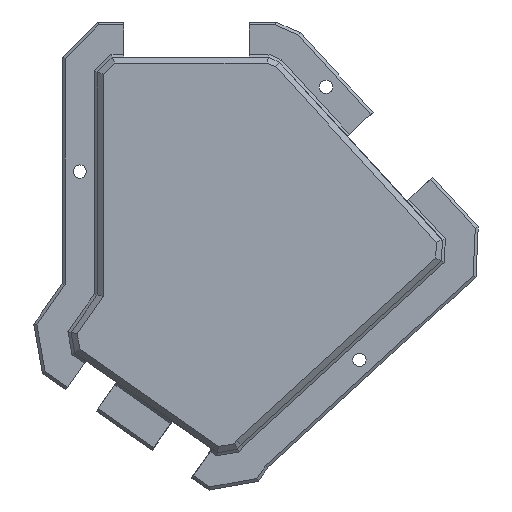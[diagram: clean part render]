
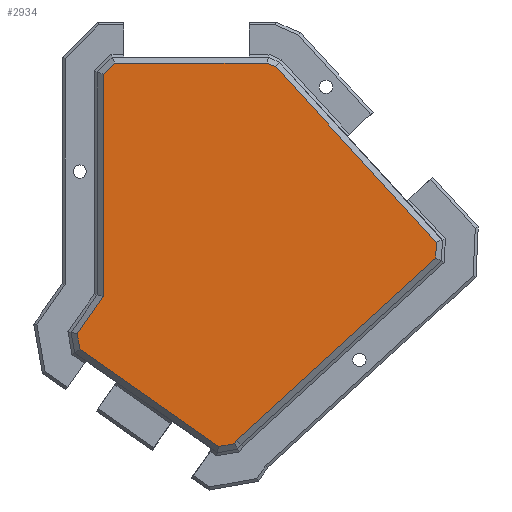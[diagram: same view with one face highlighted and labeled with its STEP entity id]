
A CAD part, left-side view. The second image highlights one B-rep face of the part: STEP entity #2934.
In plain terms, the highlighted planar face has unit normal (-1, 0, 0).
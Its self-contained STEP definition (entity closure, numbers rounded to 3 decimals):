
#45 = VECTOR ( 'NONE', #816, 1000. ) ;
#81 = AXIS2_PLACEMENT_3D ( 'NONE', #571, #2816, #3386 ) ;
#119 = LINE ( 'NONE', #1526, #1544 ) ;
#180 = EDGE_CURVE ( 'NONE', #2660, #3329, #1023, .T. ) ;
#212 = LINE ( 'NONE', #1326, #2039 ) ;
#214 = DIRECTION ( 'NONE',  ( 0., -0.737, 0.676 ) ) ;
#248 = ORIENTED_EDGE ( 'NONE', *, *, #617, .T. ) ;
#265 = FACE_OUTER_BOUND ( 'NONE', #1641, .T. ) ;
#290 = LINE ( 'NONE', #1479, #3619 ) ;
#339 = VECTOR ( 'NONE', #214, 1000. ) ;
#375 = EDGE_CURVE ( 'NONE', #2285, #726, #2512, .T. ) ;
#493 = VERTEX_POINT ( 'NONE', #2366 ) ;
#525 = CARTESIAN_POINT ( 'NONE',  ( -49.117, -56.592, 24.303 ) ) ;
#571 = CARTESIAN_POINT ( 'NONE',  ( -49.117, -12.141, 53.018 ) ) ;
#617 = EDGE_CURVE ( 'NONE', #917, #2081, #1256, .T. ) ;
#709 = LINE ( 'NONE', #3248, #2448 ) ;
#726 = VERTEX_POINT ( 'NONE', #1402 ) ;
#731 = EDGE_CURVE ( 'NONE', #3402, #2903, #1140, .T. ) ;
#816 = DIRECTION ( 'NONE',  ( 0., -0.574, 0.819 ) ) ;
#822 = DIRECTION ( 'NONE',  ( 0., -0.044, 0.999 ) ) ;
#878 = CARTESIAN_POINT ( 'NONE',  ( -49.117, -15.152, 152.923 ) ) ;
#917 = VERTEX_POINT ( 'NONE', #1163 ) ;
#959 = LINE ( 'NONE', #998, #1548 ) ;
#998 = CARTESIAN_POINT ( 'NONE',  ( -49.117, -66.73, 153.093 ) ) ;
#999 = CARTESIAN_POINT ( 'NONE',  ( -49.117, -56.717, 24.482 ) ) ;
#1017 = DIRECTION ( 'NONE',  ( 0., 0.707, -0.707 ) ) ;
#1023 = LINE ( 'NONE', #3300, #2388 ) ;
#1140 = LINE ( 'NONE', #525, #45 ) ;
#1146 = EDGE_CURVE ( 'NONE', #3329, #2285, #212, .T. ) ;
#1154 = CARTESIAN_POINT ( 'NONE',  ( -49.117, -124.742, 92.802 ) ) ;
#1163 = CARTESIAN_POINT ( 'NONE',  ( -49.117, -124.705, 91.975 ) ) ;
#1203 = EDGE_CURVE ( 'NONE', #2903, #493, #1920, .T. ) ;
#1256 = LINE ( 'NONE', #2170, #2743 ) ;
#1287 = ORIENTED_EDGE ( 'NONE', *, *, #3451, .T. ) ;
#1297 = ORIENTED_EDGE ( 'NONE', *, *, #2315, .T. ) ;
#1326 = CARTESIAN_POINT ( 'NONE',  ( -49.117, -10.738, 148.509 ) ) ;
#1370 = VECTOR ( 'NONE', #822, 1000. ) ;
#1372 = CARTESIAN_POINT ( 'NONE',  ( -49.117, -70.032, 151.64 ) ) ;
#1381 = CARTESIAN_POINT ( 'NONE',  ( -49.117, -11.324, 149.095 ) ) ;
#1393 = LINE ( 'NONE', #1154, #1370 ) ;
#1402 = CARTESIAN_POINT ( 'NONE',  ( -49.117, -11.324, 73.459 ) ) ;
#1405 = DIRECTION ( 'NONE',  ( 0., 0., -1. ) ) ;
#1422 = EDGE_CURVE ( 'NONE', #2398, #2088, #3436, .T. ) ;
#1430 = CARTESIAN_POINT ( 'NONE',  ( -49.117, -50.603, 22.424 ) ) ;
#1439 = CARTESIAN_POINT ( 'NONE',  ( -49.117, -2.464, 60.805 ) ) ;
#1479 = CARTESIAN_POINT ( 'NONE',  ( -49.117, -3.548, 54.658 ) ) ;
#1526 = CARTESIAN_POINT ( 'NONE',  ( -49.117, -56.75, 23.508 ) ) ;
#1544 = VECTOR ( 'NONE', #3435, 1000. ) ;
#1548 = VECTOR ( 'NONE', #1792, 1000. ) ;
#1561 = ORIENTED_EDGE ( 'NONE', *, *, #180, .T. ) ;
#1579 = CARTESIAN_POINT ( 'NONE',  ( -49.117, -3.404, 55.473 ) ) ;
#1591 = DIRECTION ( 'NONE',  ( 0., 0.676, 0.737 ) ) ;
#1604 = ORIENTED_EDGE ( 'NONE', *, *, #1203, .T. ) ;
#1605 = CARTESIAN_POINT ( 'NONE',  ( -49.117, -125.08, 87.125 ) ) ;
#1641 = EDGE_LOOP ( 'NONE', ( #1297, #3167, #2228, #3525, #3246, #1604, #1287, #248, #3019, #1561, #3417, #3010 ) ) ;
#1752 = CARTESIAN_POINT ( 'NONE',  ( -49.117, -51.281, 21.949 ) ) ;
#1768 = DIRECTION ( 'NONE',  ( 0., -0.819, -0.574 ) ) ;
#1792 = DIRECTION ( 'NONE',  ( 0., 0.915, 0.403 ) ) ;
#1867 = VECTOR ( 'NONE', #1768, 1000. ) ;
#1920 = LINE ( 'NONE', #1605, #339 ) ;
#2039 = VECTOR ( 'NONE', #1017, 1000. ) ;
#2081 = VERTEX_POINT ( 'NONE', #1372 ) ;
#2088 = VERTEX_POINT ( 'NONE', #1430 ) ;
#2092 = VECTOR ( 'NONE', #1405, 1000. ) ;
#2112 = DIRECTION ( 'NONE',  ( 0., 0.574, -0.819 ) ) ;
#2170 = CARTESIAN_POINT ( 'NONE',  ( -49.117, -69.748, 151.95 ) ) ;
#2172 = DIRECTION ( 'NONE',  ( 0., 1., 0. ) ) ;
#2228 = ORIENTED_EDGE ( 'NONE', *, *, #1422, .T. ) ;
#2263 = PLANE ( 'NONE',  #81 ) ;
#2285 = VERTEX_POINT ( 'NONE', #1381 ) ;
#2315 = EDGE_CURVE ( 'NONE', #726, #2427, #709, .T. ) ;
#2366 = CARTESIAN_POINT ( 'NONE',  ( -49.117, -124.469, 86.565 ) ) ;
#2388 = VECTOR ( 'NONE', #2172, 1000. ) ;
#2398 = VERTEX_POINT ( 'NONE', #1579 ) ;
#2417 = CARTESIAN_POINT ( 'NONE',  ( -49.117, -67.115, 152.923 ) ) ;
#2427 = VERTEX_POINT ( 'NONE', #1439 ) ;
#2448 = VECTOR ( 'NONE', #2112, 1000. ) ;
#2512 = LINE ( 'NONE', #2786, #2092 ) ;
#2605 = DIRECTION ( 'NONE',  ( 0., -0.174, -0.985 ) ) ;
#2660 = VERTEX_POINT ( 'NONE', #2417 ) ;
#2743 = VECTOR ( 'NONE', #1591, 1000. ) ;
#2758 = EDGE_CURVE ( 'NONE', #2427, #2398, #290, .T. ) ;
#2786 = CARTESIAN_POINT ( 'NONE',  ( -49.117, -11.324, 74.089 ) ) ;
#2816 = DIRECTION ( 'NONE',  ( 1., 0., 0. ) ) ;
#2903 = VERTEX_POINT ( 'NONE', #999 ) ;
#2934 = ADVANCED_FACE ( 'NONE', ( #265 ), #2263, .F. ) ;
#3010 = ORIENTED_EDGE ( 'NONE', *, *, #375, .T. ) ;
#3019 = ORIENTED_EDGE ( 'NONE', *, *, #3632, .T. ) ;
#3064 = EDGE_CURVE ( 'NONE', #2088, #3402, #119, .T. ) ;
#3104 = CARTESIAN_POINT ( 'NONE',  ( -49.117, -55.935, 23.365 ) ) ;
#3167 = ORIENTED_EDGE ( 'NONE', *, *, #2758, .T. ) ;
#3246 = ORIENTED_EDGE ( 'NONE', *, *, #731, .T. ) ;
#3248 = CARTESIAN_POINT ( 'NONE',  ( -49.117, -1.989, 60.127 ) ) ;
#3300 = CARTESIAN_POINT ( 'NONE',  ( -49.117, -14.324, 152.923 ) ) ;
#3329 = VERTEX_POINT ( 'NONE', #878 ) ;
#3386 = DIRECTION ( 'NONE',  ( 0., -0.819, -0.574 ) ) ;
#3402 = VERTEX_POINT ( 'NONE', #3104 ) ;
#3417 = ORIENTED_EDGE ( 'NONE', *, *, #1146, .T. ) ;
#3435 = DIRECTION ( 'NONE',  ( 0., -0.985, 0.174 ) ) ;
#3436 = LINE ( 'NONE', #1752, #1867 ) ;
#3451 = EDGE_CURVE ( 'NONE', #493, #917, #1393, .T. ) ;
#3525 = ORIENTED_EDGE ( 'NONE', *, *, #3064, .T. ) ;
#3619 = VECTOR ( 'NONE', #2605, 1000. ) ;
#3632 = EDGE_CURVE ( 'NONE', #2081, #2660, #959, .T. ) ;
